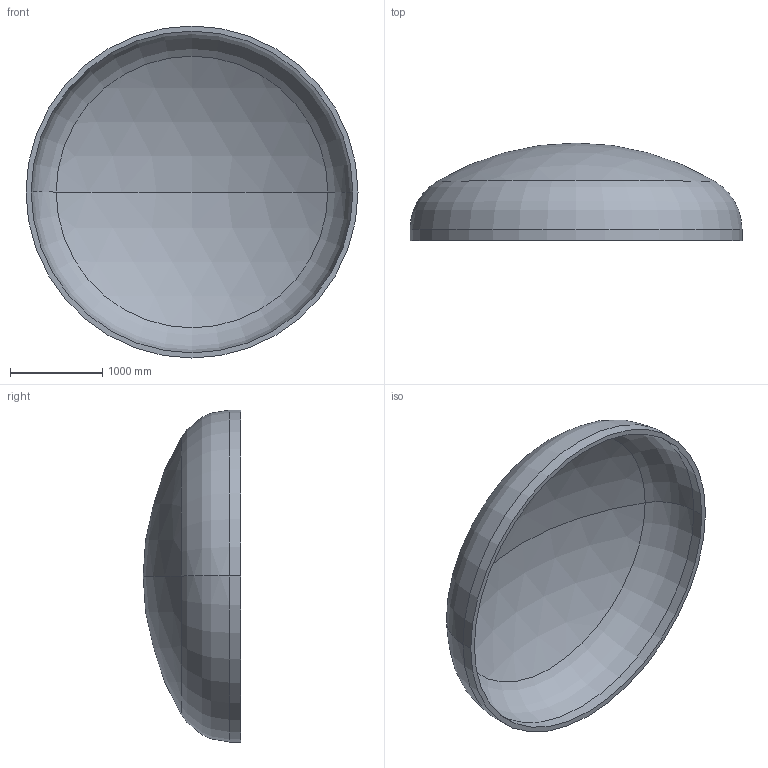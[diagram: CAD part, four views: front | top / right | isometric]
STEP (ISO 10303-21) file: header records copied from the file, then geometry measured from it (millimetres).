
FILE_DESCRIPTION (( 'STEP AP203' ), '1' );
FILE_NAME ('DIN 28013 Korbbogenform_-_Boden DIN 28013 - 3600 x 120 - I - s=56.step', '2016-07-01T20:33:31', ( '' ), ( '' ), 'SwSTEP 2.0', 'SolidWorks 2013', '' );
FILE_SCHEMA (( 'CONFIG_CONTROL_DESIGN' ));
Length unit declared in the file: millimetre
Products named in the file (1): DIN 28013 Korbbogenform_-_Boden DIN 28013 - 3600 x 120 - I - s=56
Bounding box: 3600 x 1058.03 x 3600 mm (x, y, z)
Volume: 848393538.3 mm3; surface area: 30929819.5 mm2
Topology: 1 solids, 1 shells, 13 faces, 24 edges, 14 vertices
Faces by surface type: torus 4, cylinder 4, sphere 4, plane 1
Entity records: 407 total; most frequent: DIRECTION 72, CARTESIAN_POINT 52, ORIENTED_EDGE 48, AXIS2_PLACEMENT_3D 34, EDGE_CURVE 24, CIRCLE 20, EDGE_LOOP 14, VERTEX_POINT 14
